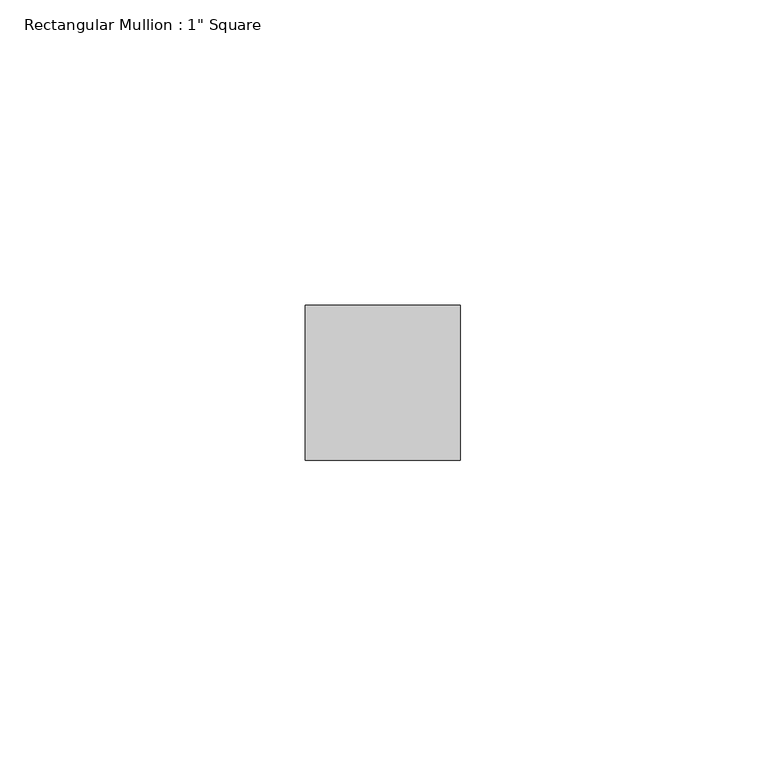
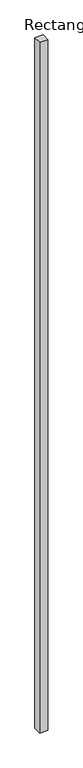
"""IFC4 building model written with IfcOpenShell, lengths in millimetres: member geometry."""

from ifc_helpers import new_model, si_unit, frame, origin, place, context, project, spatial, polyline, outline, extrude, source, transform, mapped, element, save


def member_0ef3871b(model_context):
    return source(origin(), model_context, "Body", "SweptSolid", [
        extrude(outline(polyline([(12.7, 12.7), (12.7, -12.7), (-12.7, -12.7), (-12.7, 12.7), (12.7, 12.7)])), frame((0.0, 0.0, -2273.7612103), z_axis=(0.0, 0.0, 1.0), x_axis=(1.0, 0.0, 0.0)), (0.0, 0.0, 1.0), 2273.7612103),
    ])


if __name__ == "__main__":
    model = new_model("IFC4")
    model_context = context("Model", 3, world=origin())
    ifc_project = project(units=[si_unit("LENGTHUNIT", "METRE", prefix="MILLI")], contexts=[model_context])
    site = spatial("IfcSite", under=ifc_project)
    building = spatial("IfcBuilding", under=site)
    placement = place(None, origin())
    member_shape = member_0ef3871b(model_context)
    element("IfcMember", 1, ObjectType="Rectangular Mullion : 1\" Square", at=placement, inside=building, context=model_context, shape_type="MappedRepresentation", body=[
        mapped(member_shape, transform((0.0, 0.0, 0.0), x_axis=(1.0, 0.0, 0.0), y_axis=(0.0, 1.0, 0.0), z_axis=(0.0, 0.0, 1.0))),
    ])
    save(model, "model.ifc")
